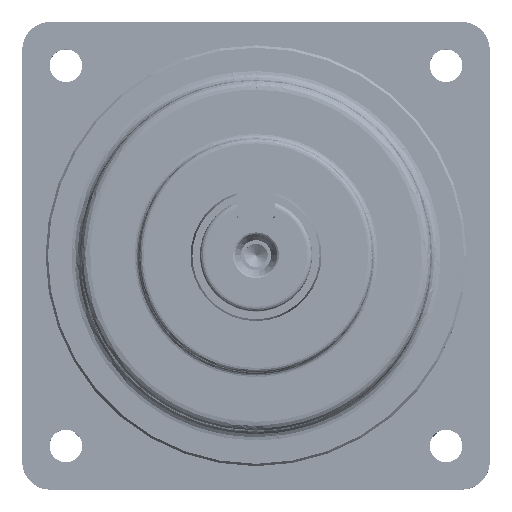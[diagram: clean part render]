
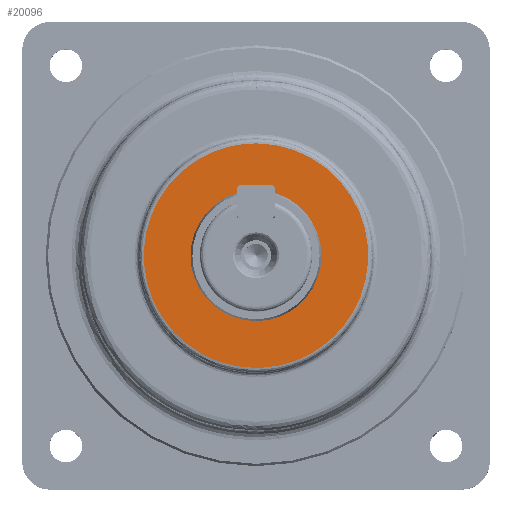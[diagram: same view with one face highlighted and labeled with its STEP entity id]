
A CAD part, top view. The second image highlights one B-rep face of the part: STEP entity #20096.
In plain terms, the highlighted planar face has unit normal (0, 0, 1).
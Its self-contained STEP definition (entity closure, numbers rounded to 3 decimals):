
#1444 = CARTESIAN_POINT ( 'NONE',  ( 0., 0., 18. ) ) ;
#1681 = CARTESIAN_POINT ( 'NONE',  ( 0., 0., 18. ) ) ;
#2548 = DIRECTION ( 'NONE',  ( 0., 0., -1. ) ) ;
#2649 = DIRECTION ( 'NONE',  ( 1., 0., 0. ) ) ;
#2725 = CARTESIAN_POINT ( 'NONE',  ( 0., 24., 18. ) ) ;
#3728 = CARTESIAN_POINT ( 'NONE',  ( 0., -24., 18. ) ) ;
#4181 =( BOUNDED_CURVE ( )  B_SPLINE_CURVE ( 3, ( #20959, #25907, #16349, #11228 ),
 .UNSPECIFIED., .F., .F. ) 
 B_SPLINE_CURVE_WITH_KNOTS ( ( 4, 4 ),
 ( 0.003, 1. ),
 .UNSPECIFIED. ) 
 CURVE ( )  GEOMETRIC_REPRESENTATION_ITEM ( )  RATIONAL_B_SPLINE_CURVE ( ( 1., 0.336, 0.336, 1. ) ) 
 REPRESENTATION_ITEM ( '' )  );
#4690 = VERTEX_POINT ( 'NONE', #28715 ) ;
#4828 = VERTEX_POINT ( 'NONE', #16933 ) ;
#5287 = VERTEX_POINT ( 'NONE', #23854 ) ;
#5641 = ORIENTED_EDGE ( 'NONE', *, *, #20978, .F. ) ;
#6843 = AXIS2_PLACEMENT_3D ( 'NONE', #1444, #13573, #8993 ) ;
#7008 = AXIS2_PLACEMENT_3D ( 'NONE', #19483, #2548, #2649 ) ;
#8261 = CARTESIAN_POINT ( 'NONE',  ( -47.785, -23.571, 18. ) ) ;
#8472 =( BOUNDED_CURVE ( )  B_SPLINE_CURVE ( 3, ( #30386, #8261, #28140, #15480 ),
 .UNSPECIFIED., .F., .F. ) 
 B_SPLINE_CURVE_WITH_KNOTS ( ( 4, 4 ),
 ( 0.003, 1. ),
 .UNSPECIFIED. ) 
 CURVE ( )  GEOMETRIC_REPRESENTATION_ITEM ( )  RATIONAL_B_SPLINE_CURVE ( ( 1., 0.336, 0.336, 1. ) ) 
 REPRESENTATION_ITEM ( '' )  );
#8633 = EDGE_CURVE ( 'NONE', #4828, #16167, #4181, .T. ) ;
#8716 = CARTESIAN_POINT ( 'NONE',  ( -0.216, -23.999, 18. ) ) ;
#8919 = VERTEX_POINT ( 'NONE', #15564 ) ;
#8993 = DIRECTION ( 'NONE',  ( 1., 0., 0. ) ) ;
#9956 = CARTESIAN_POINT ( 'NONE',  ( 0.216, 23.999, 18. ) ) ;
#10258 = CARTESIAN_POINT ( 'NONE',  ( 0.072, 24., 18. ) ) ;
#10869 = EDGE_CURVE ( 'NONE', #8919, #4828, #16083, .T. ) ;
#11228 = CARTESIAN_POINT ( 'NONE',  ( 0., -24., 18. ) ) ;
#11897 = EDGE_CURVE ( 'NONE', #30162, #4690, #18894, .T. ) ;
#12098 = CARTESIAN_POINT ( 'NONE',  ( 0., -24., 18. ) ) ;
#12321 = ORIENTED_EDGE ( 'NONE', *, *, #8633, .F. ) ;
#12940 = CARTESIAN_POINT ( 'NONE',  ( 14., 0., 18. ) ) ;
#13573 = DIRECTION ( 'NONE',  ( 0., 0., -1. ) ) ;
#13906 = DIRECTION ( 'NONE',  ( 0., 0., 1. ) ) ;
#13907 = AXIS2_PLACEMENT_3D ( 'NONE', #1681, #13906, #16266 ) ;
#14064 = ORIENTED_EDGE ( 'NONE', *, *, #21350, .T. ) ;
#14820 = ORIENTED_EDGE ( 'NONE', *, *, #26306, .F. ) ;
#15103 = ORIENTED_EDGE ( 'NONE', *, *, #11897, .T. ) ;
#15480 = CARTESIAN_POINT ( 'NONE',  ( 0., 24., 18. ) ) ;
#15564 = CARTESIAN_POINT ( 'NONE',  ( 0., 24., 18. ) ) ;
#16083 =( BOUNDED_CURVE ( )  B_SPLINE_CURVE ( 3, ( #2725, #10258, #29618, #9956 ),
 .UNSPECIFIED., .F., .F. ) 
 B_SPLINE_CURVE_WITH_KNOTS ( ( 4, 4 ),
 ( 0., 0.003 ),
 .UNSPECIFIED. ) 
 CURVE ( )  GEOMETRIC_REPRESENTATION_ITEM ( )  RATIONAL_B_SPLINE_CURVE ( ( 1., 1., 1., 1. ) ) 
 REPRESENTATION_ITEM ( '' )  );
#16167 = VERTEX_POINT ( 'NONE', #12098 ) ;
#16266 = DIRECTION ( 'NONE',  ( 1., 0., 0. ) ) ;
#16349 = CARTESIAN_POINT ( 'NONE',  ( 47.571, -24., 18. ) ) ;
#16933 = CARTESIAN_POINT ( 'NONE',  ( 0.216, 23.999, 18. ) ) ;
#18459 =( BOUNDED_CURVE ( )  B_SPLINE_CURVE ( 3, ( #3728, #23346, #25740, #8716 ),
 .UNSPECIFIED., .F., .F. ) 
 B_SPLINE_CURVE_WITH_KNOTS ( ( 4, 4 ),
 ( 0., 0.003 ),
 .UNSPECIFIED. ) 
 CURVE ( )  GEOMETRIC_REPRESENTATION_ITEM ( )  RATIONAL_B_SPLINE_CURVE ( ( 1., 1., 1., 1. ) ) 
 REPRESENTATION_ITEM ( '' )  );
#18555 = EDGE_LOOP ( 'NONE', ( #15103, #14064 ) ) ;
#18838 = PLANE ( 'NONE',  #13907 ) ;
#18894 = CIRCLE ( 'NONE', #7008, 14. ) ;
#19483 = CARTESIAN_POINT ( 'NONE',  ( 0., 0., 18. ) ) ;
#20096 = ADVANCED_FACE ( 'NONE', ( #26696, #22432 ), #18838, .T. ) ;
#20959 = CARTESIAN_POINT ( 'NONE',  ( 0.216, 23.999, 18. ) ) ;
#20978 = EDGE_CURVE ( 'NONE', #16167, #5287, #18459, .T. ) ;
#21350 = EDGE_CURVE ( 'NONE', #4690, #30162, #30443, .T. ) ;
#22432 = FACE_OUTER_BOUND ( 'NONE', #25068, .T. ) ;
#23346 = CARTESIAN_POINT ( 'NONE',  ( -0.072, -24., 18. ) ) ;
#23854 = CARTESIAN_POINT ( 'NONE',  ( -0.216, -23.999, 18. ) ) ;
#25068 = EDGE_LOOP ( 'NONE', ( #27971, #14820, #5641, #12321 ) ) ;
#25740 = CARTESIAN_POINT ( 'NONE',  ( -0.144, -24., 18. ) ) ;
#25907 = CARTESIAN_POINT ( 'NONE',  ( 47.785, 23.571, 18. ) ) ;
#26306 = EDGE_CURVE ( 'NONE', #5287, #8919, #8472, .T. ) ;
#26696 = FACE_BOUND ( 'NONE', #18555, .T. ) ;
#27971 = ORIENTED_EDGE ( 'NONE', *, *, #10869, .F. ) ;
#28140 = CARTESIAN_POINT ( 'NONE',  ( -47.571, 24., 18. ) ) ;
#28715 = CARTESIAN_POINT ( 'NONE',  ( -14., 0., 18. ) ) ;
#29618 = CARTESIAN_POINT ( 'NONE',  ( 0.144, 24., 18. ) ) ;
#30162 = VERTEX_POINT ( 'NONE', #12940 ) ;
#30386 = CARTESIAN_POINT ( 'NONE',  ( -0.216, -23.999, 18. ) ) ;
#30443 = CIRCLE ( 'NONE', #6843, 14. ) ;
